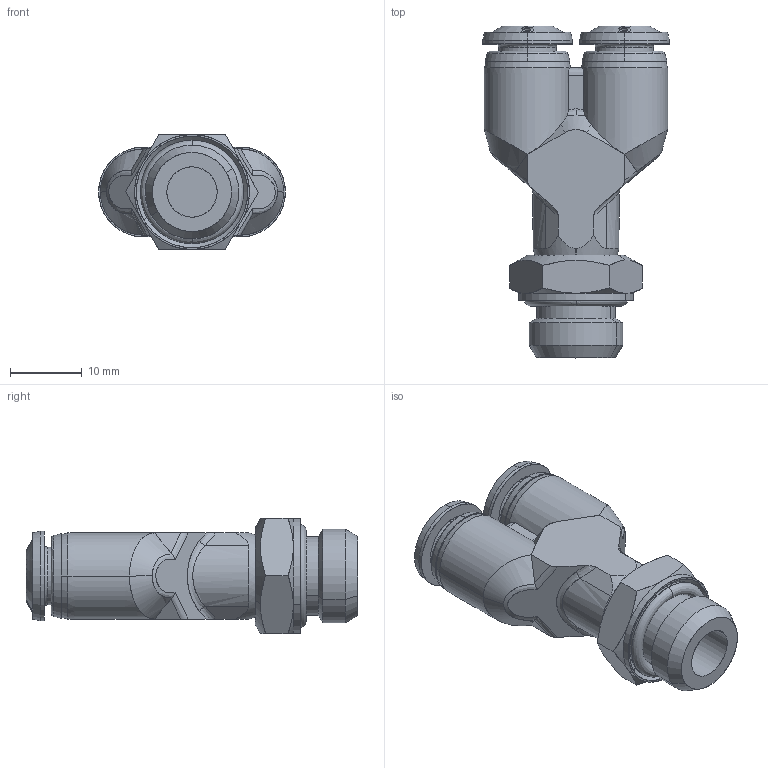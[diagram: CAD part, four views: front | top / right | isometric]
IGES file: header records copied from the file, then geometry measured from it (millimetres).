
Start section: SolidWorks IGES file using analytic representation for surfaces
Global section: file name: K:\Disegni Esecutivi\Serie 55000\ASSIEMI_55000\55325\ASSIEMI_PIENI_55325\5532500006.IGS; native system: SolidWorks 2007; preprocessor: SolidWorks 2007; author: cad02; date: 071129.083714; units: millimetre
Bounding box: 26 x 46.2 x 16.01 mm (x, y, z)
Surface area: 4035.9 mm2 (no closed solid volume)
Topology: 0 solids, 0 shells, 275 faces, 3385 edges, 3385 vertices
Faces by surface type: bspline 167, revolution 108
